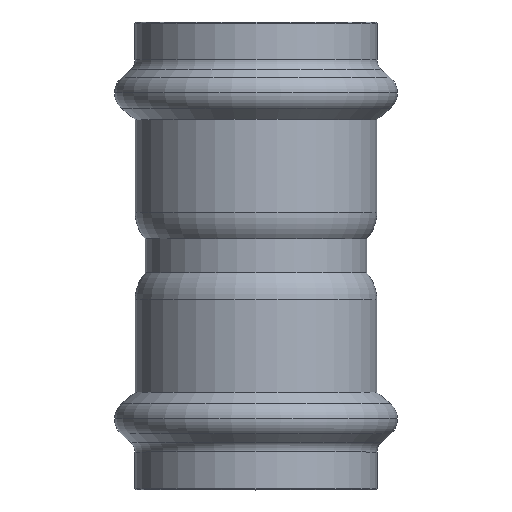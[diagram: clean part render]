
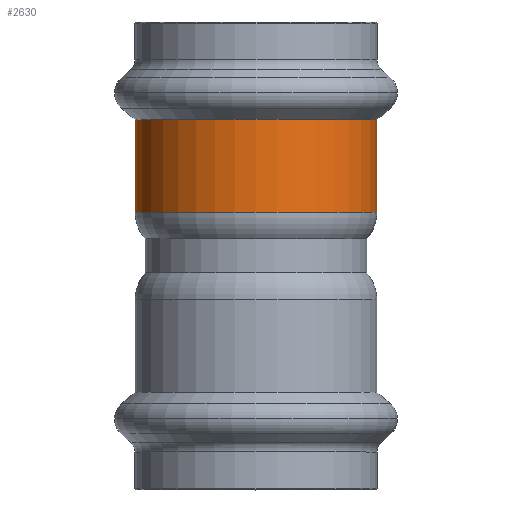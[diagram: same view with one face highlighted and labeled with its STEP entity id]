
A CAD part, top view. The second image highlights one B-rep face of the part: STEP entity #2630.
In plain terms, the highlighted cylindrical face has radius 22.9 mm (diameter 45.8 mm), a partial arc.
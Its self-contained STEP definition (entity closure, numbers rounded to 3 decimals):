
#1730=CARTESIAN_POINT('',(53.906,42.027,
0.));
#1740=VERTEX_POINT('',#1730);
#1840=CARTESIAN_POINT('',(8.106,42.027,
0.));
#1850=VERTEX_POINT('',#1840);
#1880=CARTESIAN_POINT('',(31.006,42.027,0.));
#1890=DIRECTION('',(0.,1.,0.));
#1900=DIRECTION('',(-1.,0.,0.));
#1910=AXIS2_PLACEMENT_3D('',#1880,#1890,#1900);
#1920=CIRCLE('',#1910,22.9);
#1930=EDGE_CURVE('',#1850,#1740,#1920,.T.);
#2320=CARTESIAN_POINT('',(31.006,50.796,0.));
#2330=DIRECTION('',(0.,1.,0.));
#2340=DIRECTION('',(1.,0.,0.));
#2350=AXIS2_PLACEMENT_3D('',#2320,#2330,#2340);
#2360=CYLINDRICAL_SURFACE('',#2350,22.9);
#2370=CARTESIAN_POINT('',(8.106,50.796,
0.));
#2380=DIRECTION('',(0.,1.,0.));
#2390=VECTOR('',#2380,1.);
#2400=LINE('',#2370,#2390);
#2410=CARTESIAN_POINT('',(8.106,59.566,
0.));
#2420=VERTEX_POINT('',#2410);
#2430=EDGE_CURVE('',#1850,#2420,#2400,.T.);
#2440=ORIENTED_EDGE('',*,*,#2430,.F.);
#2450=CARTESIAN_POINT('',(31.006,59.566,0.));
#2460=DIRECTION('',(0.,1.,0.));
#2470=DIRECTION('',(1.,0.,0.));
#2480=AXIS2_PLACEMENT_3D('',#2450,#2460,#2470);
#2490=CIRCLE('',#2480,22.9);
#2500=CARTESIAN_POINT('',(53.906,59.566,0.));
#2510=VERTEX_POINT('',#2500);
#2520=EDGE_CURVE('',#2420,#2510,#2490,.T.);
#2530=ORIENTED_EDGE('',*,*,#2520,.F.);
#2540=CARTESIAN_POINT('',(53.906,50.796,0.));
#2550=DIRECTION('',(0.,1.,0.));
#2560=VECTOR('',#2550,1.);
#2570=LINE('',#2540,#2560);
#2580=EDGE_CURVE('',#1740,#2510,#2570,.T.);
#2590=ORIENTED_EDGE('',*,*,#2580,.T.);
#2600=ORIENTED_EDGE('',*,*,#1930,.T.);
#2610=EDGE_LOOP('',(#2600,#2590,#2530,#2440));
#2620=FACE_OUTER_BOUND('',#2610,.T.);
#2630=ADVANCED_FACE('',(#2620),#2360,.T.);
